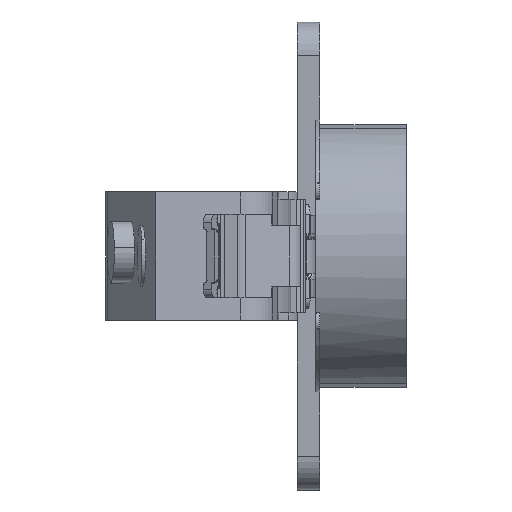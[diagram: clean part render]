
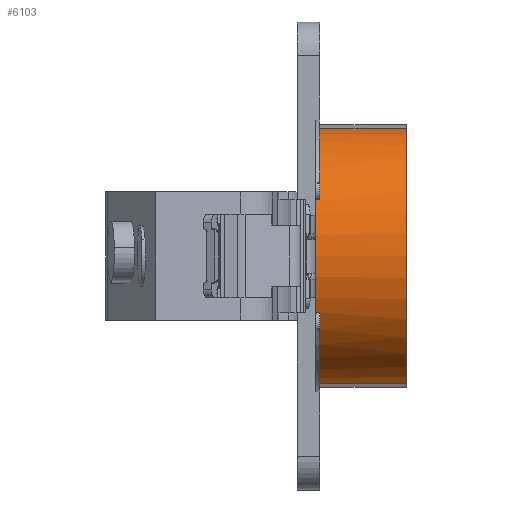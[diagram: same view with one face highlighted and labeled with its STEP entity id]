
A CAD part, left-side view. The second image highlights one B-rep face of the part: STEP entity #6103.
In plain terms, the highlighted cylindrical face has radius 17.4 mm (diameter 34.8 mm), a partial arc.
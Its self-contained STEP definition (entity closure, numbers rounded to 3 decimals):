
#61 = LINE ( 'NONE', #833, #3855 ) ;
#188 = AXIS2_PLACEMENT_3D ( 'NONE', #2783, #5809, #9341 ) ;
#274 = CARTESIAN_POINT ( 'NONE',  ( 19.96, 14.163, -7.5 ) ) ;
#567 = CARTESIAN_POINT ( 'NONE',  ( 20.148, 14.211, 7.885 ) ) ;
#606 = CARTESIAN_POINT ( 'NONE',  ( 20.051, 14.187, -7.69 ) ) ;
#677 = CIRCLE ( 'NONE', #6044, 17.4 ) ;
#703 = DIRECTION ( 'NONE',  ( 0., -1., 0. ) ) ;
#738 = CARTESIAN_POINT ( 'NONE',  ( 35.661, 13.711, 0. ) ) ;
#833 = CARTESIAN_POINT ( 'NONE',  ( 19.96, 13.811, 7.5 ) ) ;
#846 = DIRECTION ( 'NONE',  ( 0., -1., 0. ) ) ;
#943 = LINE ( 'NONE', #4582, #3831 ) ;
#1113 = EDGE_CURVE ( 'NONE', #9449, #5112, #6013, .T. ) ;
#1165 = CYLINDRICAL_SURFACE ( 'NONE', #2952, 17.4 ) ;
#1288 = AXIS2_PLACEMENT_3D ( 'NONE', #5458, #6186, #6859 ) ;
#1363 = CARTESIAN_POINT ( 'NONE',  ( 20.256, 14.211, -8.09 ) ) ;
#1918 = VERTEX_POINT ( 'NONE', #6473 ) ;
#2027 = ORIENTED_EDGE ( 'NONE', *, *, #9437, .F. ) ;
#2047 = B_SPLINE_CURVE_WITH_KNOTS ( 'NONE', 3,
 ( #8595, #606, #5783, #1363 ),
 .UNSPECIFIED., .F., .F.,
 ( 4, 4 ),
 ( 0., 1. ),
 .UNSPECIFIED. ) ;
#2122 = EDGE_CURVE ( 'NONE', #8105, #7485, #5890, .T. ) ;
#2452 = ORIENTED_EDGE ( 'NONE', *, *, #8166, .F. ) ;
#2715 = CARTESIAN_POINT ( 'NONE',  ( 19.96, 14.163, 7.5 ) ) ;
#2783 = CARTESIAN_POINT ( 'NONE',  ( 35.661, 14.211, 0. ) ) ;
#2811 = CIRCLE ( 'NONE', #1288, 17.4 ) ;
#2926 = DIRECTION ( 'NONE',  ( 0., 1., 0. ) ) ;
#2952 = AXIS2_PLACEMENT_3D ( 'NONE', #9372, #7065, #8656 ) ;
#3063 = CARTESIAN_POINT ( 'NONE',  ( 31.669, 13.711, 16.936 ) ) ;
#3131 = EDGE_CURVE ( 'NONE', #9092, #8514, #6563, .T. ) ;
#3288 = EDGE_CURVE ( 'NONE', #6303, #6466, #943, .T. ) ;
#3298 = CARTESIAN_POINT ( 'NONE',  ( 19.96, 13.711, -7.5 ) ) ;
#3498 = ORIENTED_EDGE ( 'NONE', *, *, #3288, .T. ) ;
#3658 = DIRECTION ( 'NONE',  ( 0., 0., 1. ) ) ;
#3831 = VECTOR ( 'NONE', #5892, 1000. ) ;
#3853 = DIRECTION ( 'NONE',  ( 0., 0., -1. ) ) ;
#3855 = VECTOR ( 'NONE', #2926, 1000. ) ;
#4116 = FACE_OUTER_BOUND ( 'NONE', #8677, .T. ) ;
#4145 = VERTEX_POINT ( 'NONE', #7763 ) ;
#4146 = CARTESIAN_POINT ( 'NONE',  ( 31.669, 2.211, -16.936 ) ) ;
#4225 = B_SPLINE_CURVE_WITH_KNOTS ( 'NONE', 3,
 ( #9177, #567, #6383, #2715 ),
 .UNSPECIFIED., .F., .F.,
 ( 4, 4 ),
 ( 0., 1. ),
 .UNSPECIFIED. ) ;
#4279 = ORIENTED_EDGE ( 'NONE', *, *, #3131, .F. ) ;
#4582 = CARTESIAN_POINT ( 'NONE',  ( 19.96, 13.811, -7.5 ) ) ;
#5112 = VERTEX_POINT ( 'NONE', #6041 ) ;
#5164 = CARTESIAN_POINT ( 'NONE',  ( 31.669, 63.425, -16.936 ) ) ;
#5195 = ORIENTED_EDGE ( 'NONE', *, *, #2122, .F. ) ;
#5363 = EDGE_CURVE ( 'NONE', #4145, #1918, #61, .T. ) ;
#5458 = CARTESIAN_POINT ( 'NONE',  ( 35.661, 13.711, 0. ) ) ;
#5659 = CARTESIAN_POINT ( 'NONE',  ( 31.669, 63.425, 16.936 ) ) ;
#5783 = CARTESIAN_POINT ( 'NONE',  ( 20.148, 14.211, -7.885 ) ) ;
#5809 = DIRECTION ( 'NONE',  ( 0., -1., 0. ) ) ;
#5882 = DIRECTION ( 'NONE',  ( 0., 1., 0. ) ) ;
#5890 = LINE ( 'NONE', #5164, #8774 ) ;
#5892 = DIRECTION ( 'NONE',  ( 0., -1., 0. ) ) ;
#6013 = CIRCLE ( 'NONE', #188, 17.4 ) ;
#6025 = CARTESIAN_POINT ( 'NONE',  ( 20.256, 14.211, 8.09 ) ) ;
#6041 = CARTESIAN_POINT ( 'NONE',  ( 20.256, 14.211, -8.09 ) ) ;
#6044 = AXIS2_PLACEMENT_3D ( 'NONE', #738, #5882, #3658 ) ;
#6103 = ADVANCED_FACE ( 'NONE', ( #4116 ), #1165, .T. ) ;
#6186 = DIRECTION ( 'NONE',  ( 0., 1., 0. ) ) ;
#6303 = VERTEX_POINT ( 'NONE', #274 ) ;
#6383 = CARTESIAN_POINT ( 'NONE',  ( 20.051, 14.187, 7.69 ) ) ;
#6452 = EDGE_CURVE ( 'NONE', #9449, #1918, #4225, .T. ) ;
#6466 = VERTEX_POINT ( 'NONE', #3298 ) ;
#6473 = CARTESIAN_POINT ( 'NONE',  ( 19.96, 14.163, 7.5 ) ) ;
#6531 = EDGE_CURVE ( 'NONE', #6303, #5112, #2047, .T. ) ;
#6563 = LINE ( 'NONE', #5659, #9223 ) ;
#6665 = DIRECTION ( 'NONE',  ( 0., 1., 0. ) ) ;
#6859 = DIRECTION ( 'NONE',  ( 0., 0., 1. ) ) ;
#7065 = DIRECTION ( 'NONE',  ( 0., -1., 0. ) ) ;
#7433 = CARTESIAN_POINT ( 'NONE',  ( 35.661, 2.211, 0. ) ) ;
#7485 = VERTEX_POINT ( 'NONE', #8989 ) ;
#7605 = ORIENTED_EDGE ( 'NONE', *, *, #5363, .T. ) ;
#7615 = ORIENTED_EDGE ( 'NONE', *, *, #6531, .F. ) ;
#7763 = CARTESIAN_POINT ( 'NONE',  ( 19.96, 13.711, 7.5 ) ) ;
#7799 = ORIENTED_EDGE ( 'NONE', *, *, #1113, .T. ) ;
#7935 = EDGE_CURVE ( 'NONE', #7485, #6466, #2811, .T. ) ;
#8051 = ORIENTED_EDGE ( 'NONE', *, *, #6452, .F. ) ;
#8105 = VERTEX_POINT ( 'NONE', #4146 ) ;
#8166 = EDGE_CURVE ( 'NONE', #4145, #9092, #677, .T. ) ;
#8183 = ORIENTED_EDGE ( 'NONE', *, *, #7935, .F. ) ;
#8514 = VERTEX_POINT ( 'NONE', #8541 ) ;
#8541 = CARTESIAN_POINT ( 'NONE',  ( 31.669, 2.211, 16.936 ) ) ;
#8595 = CARTESIAN_POINT ( 'NONE',  ( 19.96, 14.163, -7.5 ) ) ;
#8656 = DIRECTION ( 'NONE',  ( 0., 0., -1. ) ) ;
#8677 = EDGE_LOOP ( 'NONE', ( #4279, #2452, #7605, #8051, #7799, #7615, #3498, #8183, #5195, #2027 ) ) ;
#8774 = VECTOR ( 'NONE', #6665, 1000. ) ;
#8989 = CARTESIAN_POINT ( 'NONE',  ( 31.669, 13.711, -16.936 ) ) ;
#9025 = AXIS2_PLACEMENT_3D ( 'NONE', #7433, #846, #3853 ) ;
#9092 = VERTEX_POINT ( 'NONE', #3063 ) ;
#9177 = CARTESIAN_POINT ( 'NONE',  ( 20.256, 14.211, 8.09 ) ) ;
#9223 = VECTOR ( 'NONE', #703, 1000. ) ;
#9341 = DIRECTION ( 'NONE',  ( 0., 0., 1. ) ) ;
#9372 = CARTESIAN_POINT ( 'NONE',  ( 35.661, 63.425, 0. ) ) ;
#9437 = EDGE_CURVE ( 'NONE', #8514, #8105, #9477, .T. ) ;
#9449 = VERTEX_POINT ( 'NONE', #6025 ) ;
#9477 = CIRCLE ( 'NONE', #9025, 17.4 ) ;
